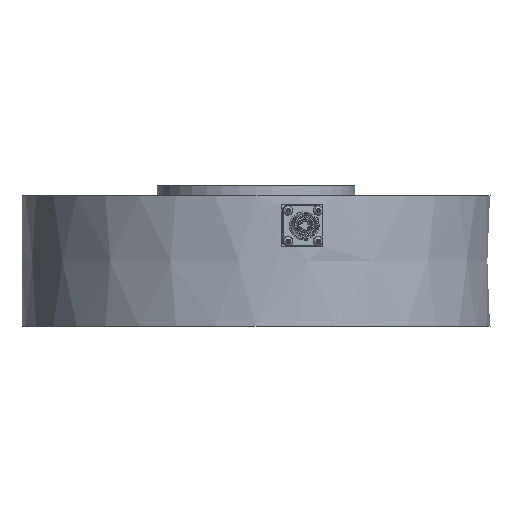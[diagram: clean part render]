
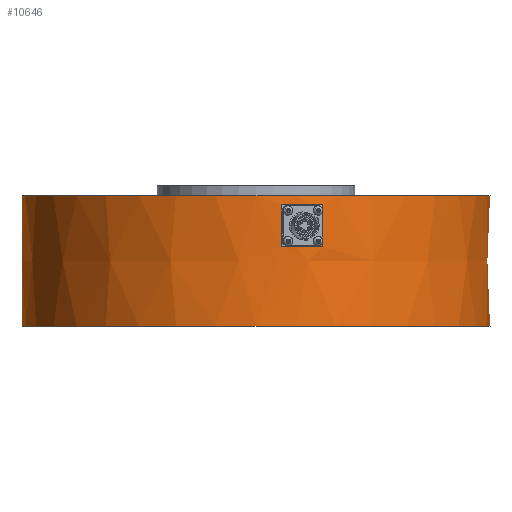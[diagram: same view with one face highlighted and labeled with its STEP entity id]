
A CAD part, front view. The second image highlights one B-rep face of the part: STEP entity #10646.
In plain terms, the highlighted conical face has half-angle 0.006 degrees and reference radius 139.504 mm.
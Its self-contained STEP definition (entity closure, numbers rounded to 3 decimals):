
#182=CONICAL_SURFACE('',#11358,139.504,0.);
#224=FACE_BOUND('',#1811,.T.);
#672=CIRCLE('',#11359,139.507);
#673=CIRCLE('',#11360,139.507);
#674=CIRCLE('',#11361,139.5);
#675=CIRCLE('',#11362,139.5);
#676=CIRCLE('',#11363,139.507);
#677=CIRCLE('',#11364,139.504);
#1205=FACE_OUTER_BOUND('',#1810,.T.);
#1810=EDGE_LOOP('',(#7564,#7565,#7566,#7567,#7568,#7569));
#1811=EDGE_LOOP('',(#7570,#7571,#7572,#7573));
#2932=LINE('',#19705,#3658);
#2933=LINE('',#19713,#3659);
#2934=LINE('',#19716,#3660);
#3658=VECTOR('',#12674,139.504);
#3659=VECTOR('',#12681,10.);
#3660=VECTOR('',#12684,10.);
#4492=VERTEX_POINT('',#19700);
#4493=VERTEX_POINT('',#19701);
#4494=VERTEX_POINT('',#19704);
#4495=VERTEX_POINT('',#19706);
#4496=VERTEX_POINT('',#19709);
#4497=VERTEX_POINT('',#19710);
#4498=VERTEX_POINT('',#19712);
#4499=VERTEX_POINT('',#19714);
#5727=EDGE_CURVE('',#4492,#4493,#672,.T.);
#5728=EDGE_CURVE('',#4493,#4492,#673,.T.);
#5729=EDGE_CURVE('',#4493,#4494,#2932,.T.);
#5730=EDGE_CURVE('',#4494,#4495,#674,.T.);
#5731=EDGE_CURVE('',#4495,#4494,#675,.T.);
#5732=EDGE_CURVE('',#4496,#4497,#676,.T.);
#5733=EDGE_CURVE('',#4497,#4498,#2933,.T.);
#5734=EDGE_CURVE('',#4498,#4499,#677,.T.);
#5735=EDGE_CURVE('',#4499,#4496,#2934,.T.);
#7564=ORIENTED_EDGE('',*,*,#5727,.F.);
#7565=ORIENTED_EDGE('',*,*,#5728,.F.);
#7566=ORIENTED_EDGE('',*,*,#5729,.T.);
#7567=ORIENTED_EDGE('',*,*,#5730,.T.);
#7568=ORIENTED_EDGE('',*,*,#5731,.T.);
#7569=ORIENTED_EDGE('',*,*,#5729,.F.);
#7570=ORIENTED_EDGE('',*,*,#5732,.T.);
#7571=ORIENTED_EDGE('',*,*,#5733,.T.);
#7572=ORIENTED_EDGE('',*,*,#5734,.T.);
#7573=ORIENTED_EDGE('',*,*,#5735,.T.);
#10646=ADVANCED_FACE('',(#1205,#224),#182,.T.);
#11358=AXIS2_PLACEMENT_3D('',#19699,#12668,#12669);
#11359=AXIS2_PLACEMENT_3D('',#19702,#12670,#12671);
#11360=AXIS2_PLACEMENT_3D('',#19703,#12672,#12673);
#11361=AXIS2_PLACEMENT_3D('',#19707,#12675,#12676);
#11362=AXIS2_PLACEMENT_3D('',#19708,#12677,#12678);
#11363=AXIS2_PLACEMENT_3D('',#19711,#12679,#12680);
#11364=AXIS2_PLACEMENT_3D('',#19715,#12682,#12683);
#12668=DIRECTION('center_axis',(0.,0.,1.));
#12669=DIRECTION('ref_axis',(1.,0.,0.));
#12670=DIRECTION('center_axis',(0.,0.,1.));
#12671=DIRECTION('ref_axis',(1.,0.,0.));
#12672=DIRECTION('center_axis',(0.,0.,1.));
#12673=DIRECTION('ref_axis',(1.,0.,0.));
#12674=DIRECTION('',(0.,0.,-1.));
#12675=DIRECTION('center_axis',(0.,0.,1.));
#12676=DIRECTION('ref_axis',(1.,0.,0.));
#12677=DIRECTION('center_axis',(0.,0.,1.));
#12678=DIRECTION('ref_axis',(1.,0.,0.));
#12679=DIRECTION('center_axis',(0.,0.,
1.));
#12680=DIRECTION('ref_axis',(-0.198,0.98,0.));
#12681=DIRECTION('',(0.,0.,-1.));
#12682=DIRECTION('center_axis',(0.,0.,
-1.));
#12683=DIRECTION('ref_axis',(-0.198,0.98,0.));
#12684=DIRECTION('',(0.,0.,1.));
#19699=CARTESIAN_POINT('Origin',(-0.004,0.,34.986));
#19700=CARTESIAN_POINT('',(139.5,0.,74.));
#19701=CARTESIAN_POINT('',(-139.515,0.,73.972));
#19702=CARTESIAN_POINT('Origin',(-0.007,0.,73.986));
#19703=CARTESIAN_POINT('Origin',(-0.007,0.,73.986));
#19704=CARTESIAN_POINT('',(-139.499,0.,-4.028));
#19705=CARTESIAN_POINT('',(-139.507,0.,34.972));
#19706=CARTESIAN_POINT('',(139.5,0.,-4.));
#19707=CARTESIAN_POINT('Origin',(0.,0.,-4.014));
#19708=CARTESIAN_POINT('Origin',(0.,0.,-4.014));
#19709=CARTESIAN_POINT('',(15.201,-138.675,68.459));
#19710=CARTESIAN_POINT('',(39.623,-133.76,68.462));
#19711=CARTESIAN_POINT('Origin',(-0.007,0.,
68.472));
#19712=CARTESIAN_POINT('',(39.625,-133.757,43.462));
#19713=CARTESIAN_POINT('',(39.624,-133.758,55.962));
#19714=CARTESIAN_POINT('',(15.203,-138.673,43.459));
#19715=CARTESIAN_POINT('Origin',(-0.004,0.,
43.472));
#19716=CARTESIAN_POINT('',(15.202,-138.674,55.959));
